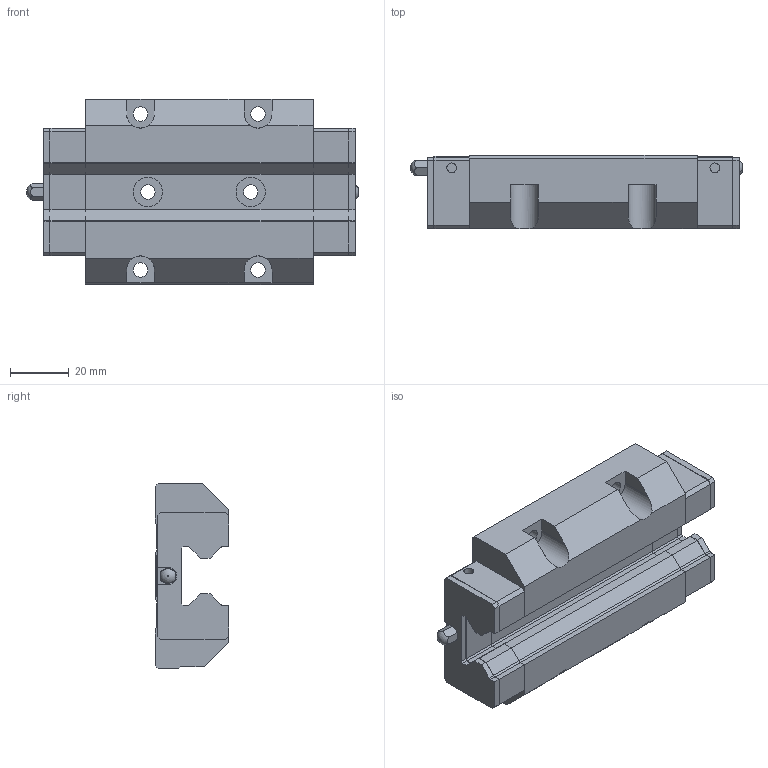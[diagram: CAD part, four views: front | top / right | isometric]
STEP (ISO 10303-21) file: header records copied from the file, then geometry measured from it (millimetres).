
FILE_DESCRIPTION (( 'STEP AP203' ), '1' );
FILE_NAME ('SRW20HC.STEP', '2025-07-11T05:27:47', ( 'Owner' ), ( 'Organization' ), 'SwSTEP 2.0', 'SolidWorks 2020', '' );
FILE_SCHEMA (( 'CONFIG_CONTROL_DESIGN' ));
Length unit declared in the file: millimetre
Products named in the file (1): SRW20HC
Bounding box: 112.96 x 25 x 63 mm (x, y, z)
Volume: 111465.7 mm3; surface area: 31668.1 mm2
Topology: 7 solids, 7 shells, 300 faces, 772 edges, 498 vertices
Faces by surface type: plane 234, cylinder 58, cone 4, sphere 2, torus 2
Entity records: 9057 total; most frequent: CARTESIAN_POINT 1589, ORIENTED_EDGE 1536, DIRECTION 1494, EDGE_CURVE 768, VECTOR 628, LINE 628, VERTEX_POINT 496, AXIS2_PLACEMENT_3D 433
